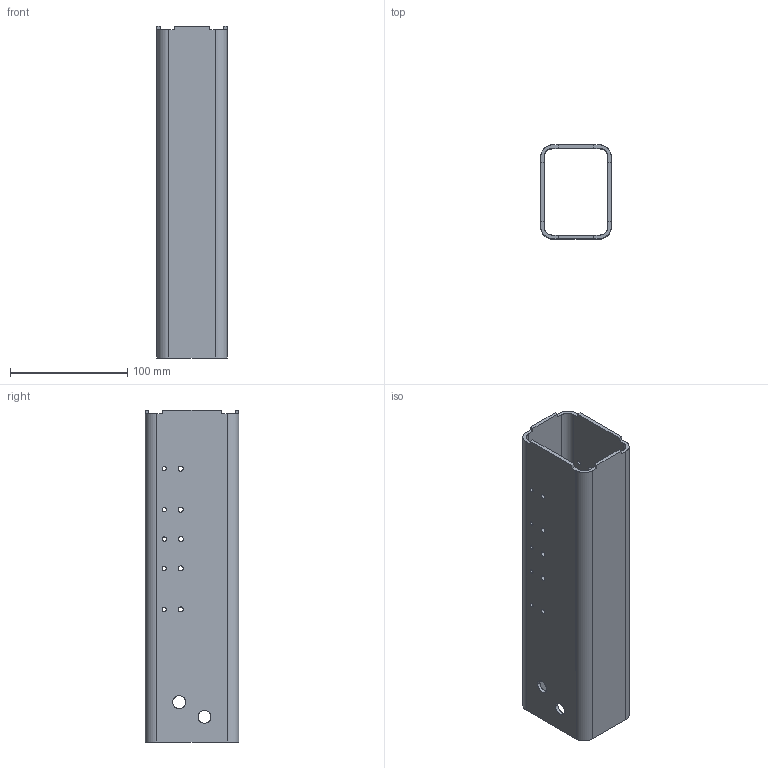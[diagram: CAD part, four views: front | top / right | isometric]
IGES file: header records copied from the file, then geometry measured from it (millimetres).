
Start section: SolidWorks IGES file using analytic representation for surfaces
Global section: file name: C:\Shalunov\Àòëàñ Ò\Ðàñ÷åò ïðîèçâîäñòâà\Ìåòàëë\Ðåçêà\òðóáà 120õ120 âòîðàÿ ÷àñòü.IGS; native system: SolidWorks 2019; preprocessor: SolidWorks 2019; author: Vga2023; date: 250311.173735; units: millimetre
Bounding box: 60 x 80 x 283 mm (x, y, z)
Surface area: 144365.4 mm2 (no closed solid volume)
Topology: 0 solids, 0 shells, 81 faces, 2032 edges, 2032 vertices
Faces by surface type: revolution 56, bspline 25
